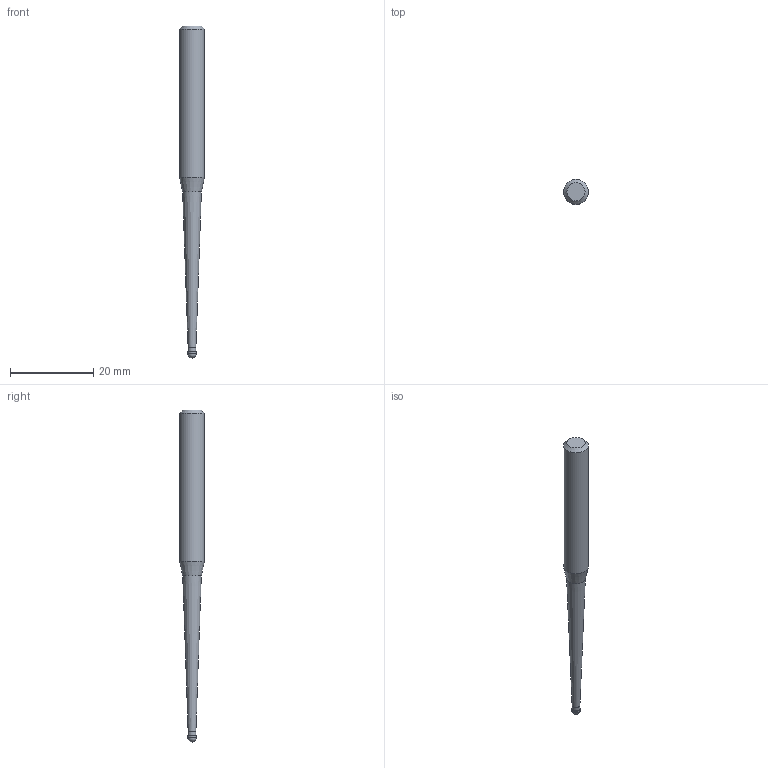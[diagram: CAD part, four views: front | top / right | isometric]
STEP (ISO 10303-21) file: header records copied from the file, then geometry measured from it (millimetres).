
FILE_DESCRIPTION((''),'2;1');
FILE_NAME('C:\Users\nsx150\AppData\Local\Temp\Mastercam 2021\E0ENTZRV18\TEMP.step','2021-09-02T09:57:07',(''),(''),'STEP Write','Mastercam 2021 ... CNC Software, Inc.','');
FILE_SCHEMA(('AUTOMOTIVE_DESIGN'));
Length unit declared in the file: millimetre
Products named in the file (1): None
Bounding box: 6 x 6 x 80 mm (x, y, z)
Volume: 1426.6 mm3; surface area: 1163.2 mm2
Topology: 2 solids, 2 shells, 10 faces, 16 edges, 9 vertices
Faces by surface type: plane 3, cylinder 3, cone 3, sphere 1
Full cylindrical faces by diameter (mm): 1.875 x1, 2 x1, 6 x1
Entity records: 232 total; most frequent: DIRECTION 40, CARTESIAN_POINT 28, AXIS2_PLACEMENT_3D 20, ORIENTED_EDGE 16, EDGE_LOOP 16, STYLED_ITEM 13, ADVANCED_FACE 10, FACE_BOUND 9
